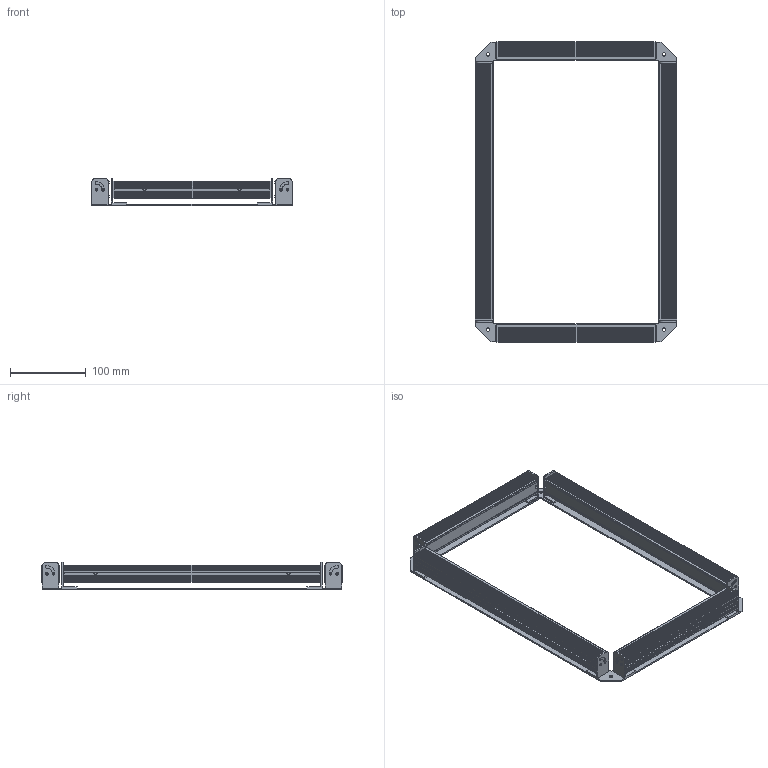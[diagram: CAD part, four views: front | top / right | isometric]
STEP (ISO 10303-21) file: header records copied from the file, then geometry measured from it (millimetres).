
FILE_DESCRIPTION((''),'2;1');
FILE_NAME('MSL-102-102_ASM','2020-03-26T',('ASUS'),(''),'PRO/ENGINEER BY PARAMETRIC TECHNOLOGY CORPORATION, 2008380','PRO/ENGINEER BY PARAMETRIC TECHNOLOGY CORPORATION, 2008380','');
FILE_SCHEMA(('CONFIG_CONTROL_DESIGN'));
Length unit declared in the file: millimetre
Products named in the file (4): PRT0002; DSL-209-22; DSL-340-22; MSL-102-102_ASM
Assembly tree (5 placements, depth 2):
  MSL-102-102_ASM
    PRT0002
    DSL-209-22  x2
    DSL-340-22  x2
Bounding box: 267.03 x 398.02 x 36 mm (x, y, z)
Volume: 580375.2 mm3; surface area: 271692.9 mm2
Topology: 5 solids, 21 shells, 1250 faces, 3328 edges, 2204 vertices
Faces by surface type: plane 754, cylinder 416, cone 80
Entity records: 22010 total; most frequent: CARTESIAN_POINT 4087, DIRECTION 3718, ORIENTED_EDGE 3660, EDGE_CURVE 1846, VECTOR 1276, LINE 1276, VERTEX_POINT 1234, AXIS2_PLACEMENT_3D 1221
